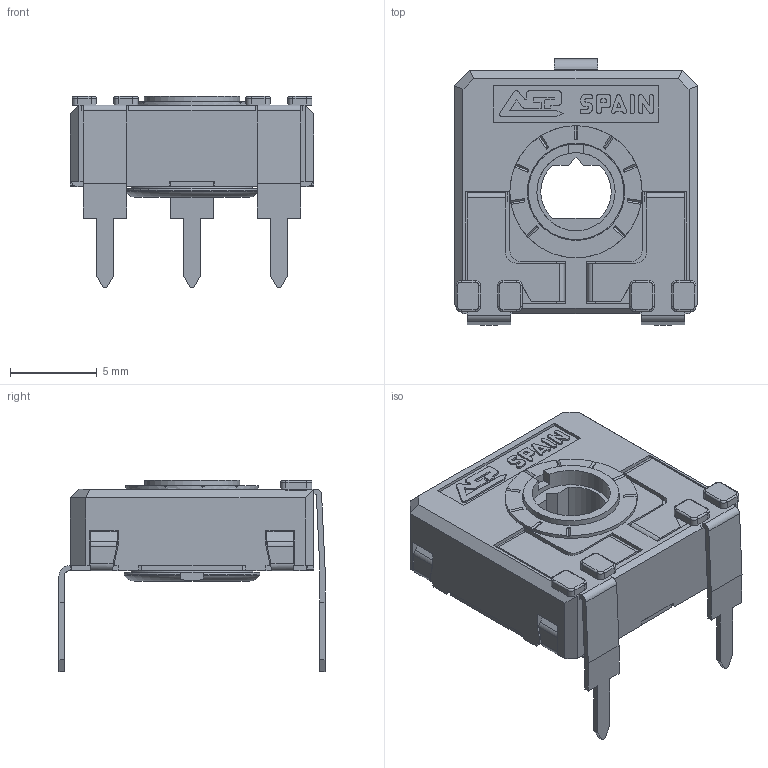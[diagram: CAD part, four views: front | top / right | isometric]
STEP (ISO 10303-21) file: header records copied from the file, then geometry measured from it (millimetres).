
FILE_DESCRIPTION(/* description */ (''),/* implementation_level */ '2;1');
FILE_NAME(/* name */ '\\SERVERACP\intercambio\Ignacio Santa Cecilia\Nueva WEB 2025\CA14 - CE14\CA14KV15.stp',/* time_stamp */ '2025-06-06T10:46:29+02:00',/* author */ ('CEM'),/* organization */ (''),/* preprocessor_version */ 'ST-DEVELOPER v17',/* originating_system */ 'Autodesk Inventor 2018',/* authorisation */ '');
FILE_SCHEMA (('AUTOMOTIVE_DESIGN { 1 0 10303 214 3 1 1 }'));
Length unit declared in the file: millimetre
Products named in the file (1): CARCASA CA14 PGA
Bounding box: 14 x 15.3 x 11 mm (x, y, z)
Volume: 535.5 mm3; surface area: 1488.5 mm2
Topology: 1 solids, 1 shells, 679 faces, 1921 edges, 1238 vertices
Faces by surface type: plane 503, cylinder 139, torus 23, bspline 8, cone 6
Full cylindrical faces by diameter (mm): 4.5 x1, 5.5 x1, 5.6 x1, 5.752 x1, 6.8 x1, 7.6 x1
Entity records: 22207 total; most frequent: CARTESIAN_POINT 4136, ORIENTED_EDGE 3842, DIRECTION 3584, EDGE_CURVE 1921, LINE 1512, VECTOR 1512, VERTEX_POINT 1238, AXIS2_PLACEMENT_3D 1036
